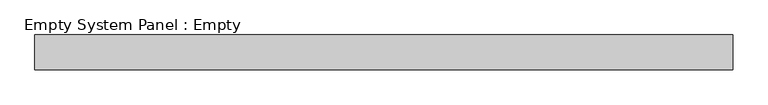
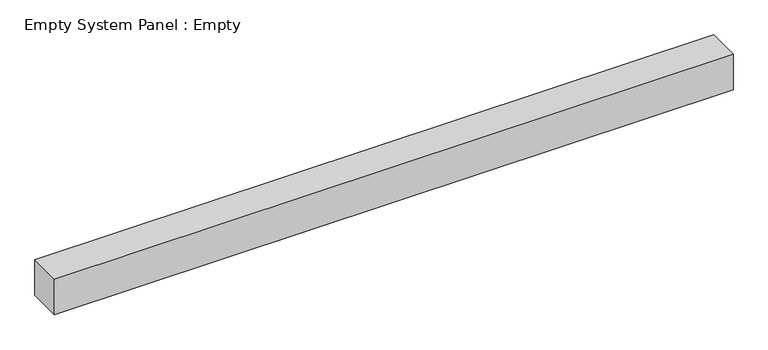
"""IFC4 building model written with IfcOpenShell, lengths in millimetres: plate geometry, Empty System Panel : Empty."""

from ifc_helpers import new_model, si_unit, origin, origin_with_axes, place, context, project, spatial, polyline, outline, extrude, source, transform, mapped, element, save


def empty_system_panel_empty_c228c368(model_context):
    return source(origin(), model_context, "Body", "SweptSolid", [
        extrude(outline(polyline([(1000.0, -50.0), (-1000.0, -50.0), (-1000.0, 50.0), (1000.0, 50.0), (1000.0, -50.0)])), origin_with_axes(), (0.0, 0.0, 1.0), 110.8040405),
    ])


if __name__ == "__main__":
    model = new_model("IFC4")
    model_context = context("Model", 3, world=origin())
    ifc_project = project(units=[si_unit("LENGTHUNIT", "METRE", prefix="MILLI")], contexts=[model_context])
    site = spatial("IfcSite", under=ifc_project)
    building = spatial("IfcBuilding", under=site)
    placement = place(None, origin())
    empty_system_panel_empty_shape = empty_system_panel_empty_c228c368(model_context)
    element("IfcPlate", 1, ObjectType="Empty System Panel : Empty", at=placement, inside=building, context=model_context, shape_type="MappedRepresentation", body=[
        mapped(empty_system_panel_empty_shape, transform((0.0, 0.0, 0.0), x_axis=(1.0, 0.0, 0.0), y_axis=(0.0, 1.0, 0.0), z_axis=(0.0, 0.0, 1.0))),
    ])
    save(model, "model.ifc")
